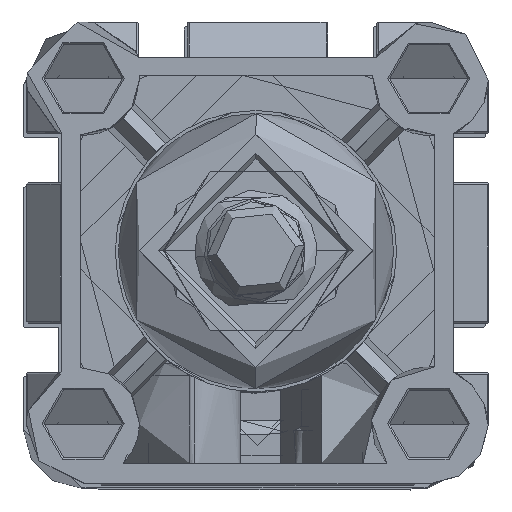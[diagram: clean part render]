
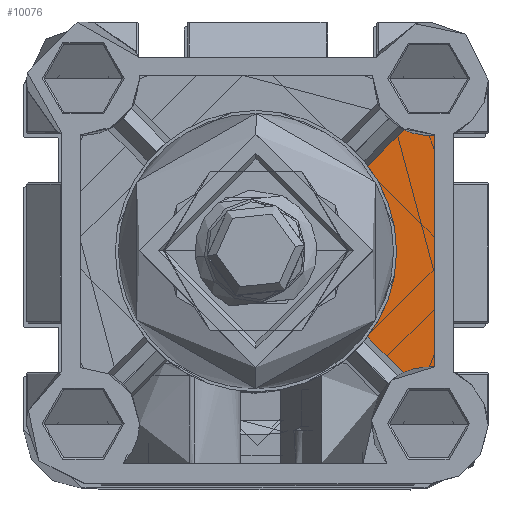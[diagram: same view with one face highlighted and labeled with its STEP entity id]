
A CAD part, top view. The second image highlights one B-rep face of the part: STEP entity #10076.
In plain terms, the highlighted planar face has unit normal (0, 0, 1) as drawn and (0, 0, -1) by its records, which use the part's own axes.
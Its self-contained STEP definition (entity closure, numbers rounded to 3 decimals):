
#201 = CARTESIAN_POINT ( 'NONE',  ( 11.049, 15.359, 33. ) ) ;
#483 = DIRECTION ( 'NONE',  ( -0.707, -0.707, 0. ) ) ;
#536 = CARTESIAN_POINT ( 'NONE',  ( 9.25, 32.25, 33. ) ) ;
#643 = AXIS2_PLACEMENT_3D ( 'NONE', #11152, #11289, #11297 ) ;
#1288 = EDGE_CURVE ( 'NONE', #4394, #13253, #11660, .T. ) ;
#1916 = LINE ( 'NONE', #8053, #20770 ) ;
#2442 = EDGE_CURVE ( 'NONE', #22469, #20000, #1916, .T. ) ;
#3225 = CIRCLE ( 'NONE', #3553, 23. ) ;
#3553 = AXIS2_PLACEMENT_3D ( 'NONE', #14489, #3728, #16269 ) ;
#3728 = DIRECTION ( 'NONE',  ( 0., 0., 1. ) ) ;
#3865 = ORIENTED_EDGE ( 'NONE', *, *, #22168, .T. ) ;
#4367 = CIRCLE ( 'NONE', #4598, 9.25 ) ;
#4394 = VERTEX_POINT ( 'NONE', #5955 ) ;
#4598 = AXIS2_PLACEMENT_3D ( 'NONE', #17306, #6494, #19065 ) ;
#4620 = ORIENTED_EDGE ( 'NONE', *, *, #12642, .T. ) ;
#4720 = EDGE_LOOP ( 'NONE', ( #20869, #4620, #10931, #16891, #13344, #17576, #3865 ) ) ;
#5955 = CARTESIAN_POINT ( 'NONE',  ( 8.123, 12.433, 33. ) ) ;
#6146 = CARTESIAN_POINT ( 'NONE',  ( 3., 32.301, 33. ) ) ;
#6494 = DIRECTION ( 'NONE',  ( 0., 0., 1. ) ) ;
#7254 = CARTESIAN_POINT ( 'NONE',  ( 8.021, 52.169, 33. ) ) ;
#7924 = DIRECTION ( 'NONE',  ( 0.707, -0.707, 0. ) ) ;
#8053 = CARTESIAN_POINT ( 'NONE',  ( 8.021, 52.169, 33. ) ) ;
#8589 = VECTOR ( 'NONE', #483, 1000. ) ;
#8748 = EDGE_CURVE ( 'NONE', #15119, #4394, #13994, .T. ) ;
#8897 = CARTESIAN_POINT ( 'NONE',  ( 13.975, 18.285, 33. ) ) ;
#9072 = VECTOR ( 'NONE', #15142, 1000. ) ;
#10038 = VERTEX_POINT ( 'NONE', #10489 ) ;
#10076 = ADVANCED_FACE ( 'NONE', ( #21862 ), #14370, .T. ) ;
#10089 = AXIS2_PLACEMENT_3D ( 'NONE', #13858, #13094, #11220 ) ;
#10280 = VERTEX_POINT ( 'NONE', #536 ) ;
#10489 = CARTESIAN_POINT ( 'NONE',  ( 3., 51.304, 33. ) ) ;
#10931 = ORIENTED_EDGE ( 'NONE', *, *, #14210, .T. ) ;
#11104 = CARTESIAN_POINT ( 'NONE',  ( 32.25, 32.25, 33. ) ) ;
#11150 = DIRECTION ( 'NONE',  ( 0., 0., 1. ) ) ;
#11152 = CARTESIAN_POINT ( 'NONE',  ( 4., 4., 33. ) ) ;
#11178 = DIRECTION ( 'NONE',  ( -1., 0., 0. ) ) ;
#11220 = DIRECTION ( 'NONE',  ( -1., 0., 0. ) ) ;
#11289 = DIRECTION ( 'NONE',  ( 0., 0., 1. ) ) ;
#11297 = DIRECTION ( 'NONE',  ( -1., 0., 0. ) ) ;
#11660 = CIRCLE ( 'NONE', #643, 9.386 ) ;
#12642 = EDGE_CURVE ( 'NONE', #20000, #10280, #16666, .T. ) ;
#13094 = DIRECTION ( 'NONE',  ( 0., 0., -1. ) ) ;
#13253 = VERTEX_POINT ( 'NONE', #14915 ) ;
#13344 = ORIENTED_EDGE ( 'NONE', *, *, #1288, .T. ) ;
#13858 = CARTESIAN_POINT ( 'NONE',  ( 14.041, 12.194, 33. ) ) ;
#13863 = LINE ( 'NONE', #6146, #9072 ) ;
#13994 = LINE ( 'NONE', #201, #8589 ) ;
#14210 = EDGE_CURVE ( 'NONE', #10280, #15119, #3225, .T. ) ;
#14370 = PLANE ( 'NONE',  #10089 ) ;
#14489 = CARTESIAN_POINT ( 'NONE',  ( 32.25, 32.25, 33. ) ) ;
#14896 = EDGE_CURVE ( 'NONE', #13253, #10038, #13863, .T. ) ;
#14915 = CARTESIAN_POINT ( 'NONE',  ( 3., 13.333, 33. ) ) ;
#15119 = VERTEX_POINT ( 'NONE', #8897 ) ;
#15142 = DIRECTION ( 'NONE',  ( 0., 1., 0. ) ) ;
#16269 = DIRECTION ( 'NONE',  ( -1., 0., 0. ) ) ;
#16611 = AXIS2_PLACEMENT_3D ( 'NONE', #11104, #11150, #11178 ) ;
#16666 = CIRCLE ( 'NONE', #16611, 23. ) ;
#16891 = ORIENTED_EDGE ( 'NONE', *, *, #8748, .T. ) ;
#17306 = CARTESIAN_POINT ( 'NONE',  ( 4., 60.5, 33. ) ) ;
#17576 = ORIENTED_EDGE ( 'NONE', *, *, #14896, .T. ) ;
#19065 = DIRECTION ( 'NONE',  ( -1., 0., 0. ) ) ;
#20000 = VERTEX_POINT ( 'NONE', #21228 ) ;
#20770 = VECTOR ( 'NONE', #7924, 1000. ) ;
#20869 = ORIENTED_EDGE ( 'NONE', *, *, #2442, .T. ) ;
#21228 = CARTESIAN_POINT ( 'NONE',  ( 13.975, 46.215, 33. ) ) ;
#21862 = FACE_OUTER_BOUND ( 'NONE', #4720, .T. ) ;
#22168 = EDGE_CURVE ( 'NONE', #10038, #22469, #4367, .T. ) ;
#22469 = VERTEX_POINT ( 'NONE', #7254 ) ;
